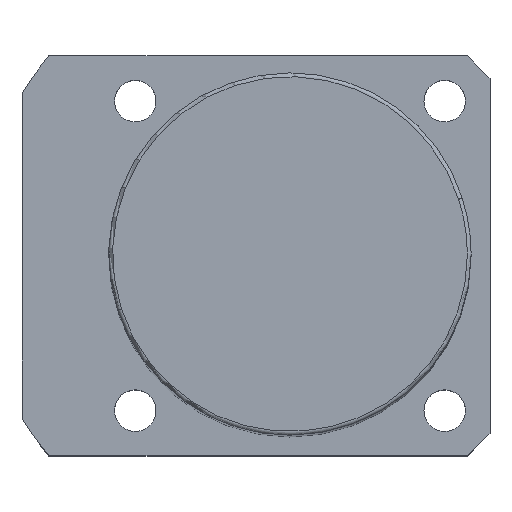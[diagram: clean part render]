
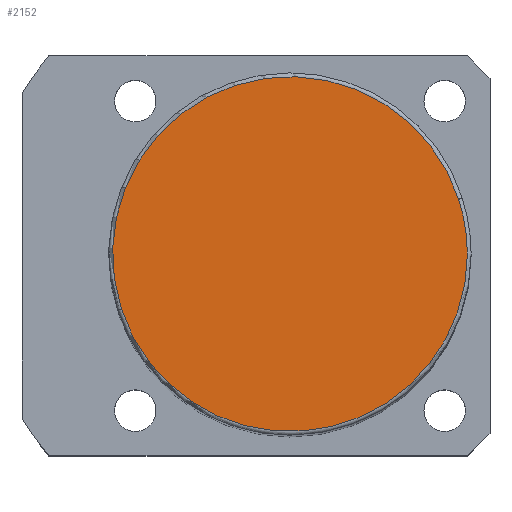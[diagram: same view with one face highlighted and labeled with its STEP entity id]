
A CAD part, top view. The second image highlights one B-rep face of the part: STEP entity #2152.
In plain terms, the highlighted planar face has unit normal (0, 0, 1).
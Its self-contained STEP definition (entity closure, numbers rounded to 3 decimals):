
#2085=CARTESIAN_POINT('',(22.35,7.262,149.0));
#2086=VERTEX_POINT('',#2085);
#2104=CARTESIAN_POINT('',(-22.35,-7.262,149.0));
#2105=VERTEX_POINT('',#2104);
#2113=CARTESIAN_POINT('',(0.0,0.0,149.0));
#2114=DIRECTION('',(0.0,0.0,1.0));
#2115=DIRECTION('',(1.0,0.0,0.0));
#2116=AXIS2_PLACEMENT_3D('',#2113,#2114,#2115);
#2117=CIRCLE('',#2116,23.5);
#2118=EDGE_CURVE('no 2149',#2086,#2105,#2117,.T.);
#2128=CARTESIAN_POINT('',(23.5,0.0,149.0));
#2129=VERTEX_POINT('',#2128);
#2130=CARTESIAN_POINT('',(0.0,0.0,149.0));
#2131=DIRECTION('',(0.0,0.0,1.0));
#2132=DIRECTION('',(1.0,0.0,0.0));
#2133=AXIS2_PLACEMENT_3D('',#2130,#2131,#2132);
#2134=CIRCLE('',#2133,23.5);
#2135=EDGE_CURVE('no 2158',#2129,#2086,#2134,.T.);
#2136=ORIENTED_EDGE('',*,*,#2135,.T.);
#2137=ORIENTED_EDGE('',*,*,#2118,.T.);
#2138=CARTESIAN_POINT('',(0.0,0.0,149.0));
#2139=DIRECTION('',(0.0,0.0,1.0));
#2140=DIRECTION('',(1.0,0.0,0.0));
#2141=AXIS2_PLACEMENT_3D('',#2138,#2139,#2140);
#2142=CIRCLE('',#2141,23.5);
#2143=EDGE_CURVE('no 2164',#2105,#2129,#2142,.T.);
#2144=ORIENTED_EDGE('',*,*,#2143,.T.);
#2145=EDGE_LOOP('',(#2136,#2137,#2144));
#2146=FACE_OUTER_BOUND('',#2145,.T.);
#2147=CARTESIAN_POINT('',(0.0,0.0,149.0));
#2148=DIRECTION('',(0.0,0.0,1.0));
#2149=DIRECTION('',(1.0,0.0,0.0));
#2150=AXIS2_PLACEMENT_3D('',#2147,#2148,#2149);
#2151=PLANE('',#2150);
#2152=ADVANCED_FACE('no 2151',(#2146),#2151,.T.);
